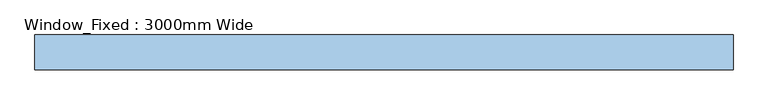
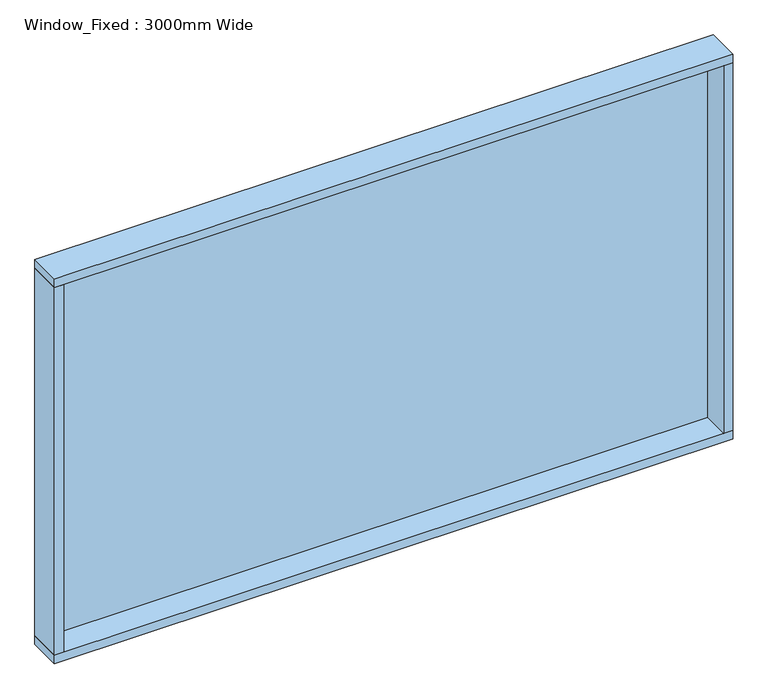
"""IFC4 building model written with IfcOpenShell, lengths in millimetres: window geometry, Window_Fixed : 3000mm Wide."""

from ifc_helpers import new_model, si_unit, frame, origin, place, context, project, spatial, polyline, outline, extrude, source, transform, mapped, element, save


def window_fixed_3000mm_wide_e2b4e5f3(model_context):
    return source(origin(), model_context, "Body", "SweptSolid", [
        extrude(outline(polyline([(1460.0, 120.0), (1460.0, 108.0), (-1460.0, 108.0), (-1460.0, 120.0), (1460.0, 120.0)])), frame((0.0, 0.0, 290.0), z_axis=(0.0, 0.0, 1.0), x_axis=(1.0, 0.0, 0.0)), (0.0, 0.0, 1.0), 1720.0),
        extrude(outline(polyline([(1500.0, 135.0), (1500.0, -15.0), (-1500.0, -15.0), (-1500.0, 135.0), (1500.0, 135.0)])), frame((0.0, 0.0, 2010.0), z_axis=(0.0, 0.0, 1.0), x_axis=(1.0, 0.0, 0.0)), (0.0, 0.0, 1.0), 40.0),
        extrude(outline(polyline([(1500.0, 135.0), (1500.0, -15.0), (-1500.0, -15.0), (-1500.0, 135.0), (1500.0, 135.0)])), frame((0.0, 0.0, 250.0), z_axis=(0.0, 0.0, 1.0), x_axis=(1.0, 0.0, 0.0)), (0.0, 0.0, 1.0), 40.0),
        extrude(outline(polyline([(-1460.0, -15.0), (-1500.0, -15.0), (-1500.0, 135.0), (-1460.0, 135.0), (-1460.0, -15.0)])), frame((0.0, 0.0, 290.0), z_axis=(0.0, 0.0, 1.0), x_axis=(1.0, 0.0, 0.0)), (0.0, 0.0, 1.0), 1720.0),
        extrude(outline(polyline([(1460.0, -15.0), (1460.0, 135.0), (1500.0, 135.0), (1500.0, -15.0), (1460.0, -15.0)])), frame((0.0, 0.0, 290.0), z_axis=(0.0, 0.0, 1.0), x_axis=(1.0, 0.0, 0.0)), (0.0, 0.0, 1.0), 1720.0),
    ])


if __name__ == "__main__":
    model = new_model("IFC4")
    model_context = context("Model", 3, world=origin())
    ifc_project = project(units=[si_unit("LENGTHUNIT", "METRE", prefix="MILLI")], contexts=[model_context])
    site = spatial("IfcSite", under=ifc_project)
    building = spatial("IfcBuilding", under=site)
    placement = place(None, origin())
    window_fixed_3000mm_wide_shape = window_fixed_3000mm_wide_e2b4e5f3(model_context)
    element("IfcWindow", 1, ObjectType="Window_Fixed : 3000mm Wide", at=placement, inside=building, context=model_context, shape_type="MappedRepresentation", body=[
        mapped(window_fixed_3000mm_wide_shape, transform((0.0, 0.0, 0.0), x_axis=(1.0, 0.0, 0.0), y_axis=(0.0, 1.0, 0.0), z_axis=(0.0, 0.0, 1.0))),
    ])
    save(model, "model.ifc")
